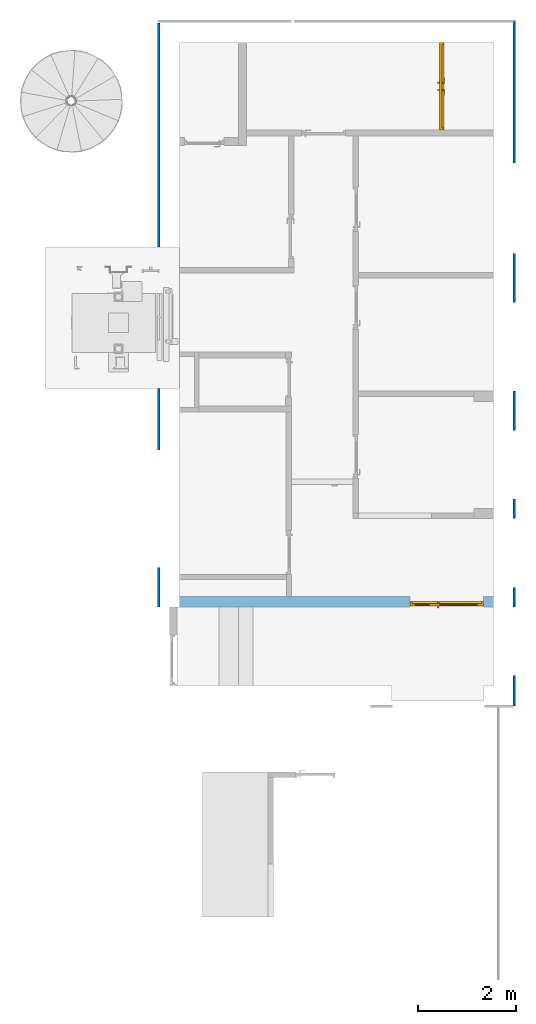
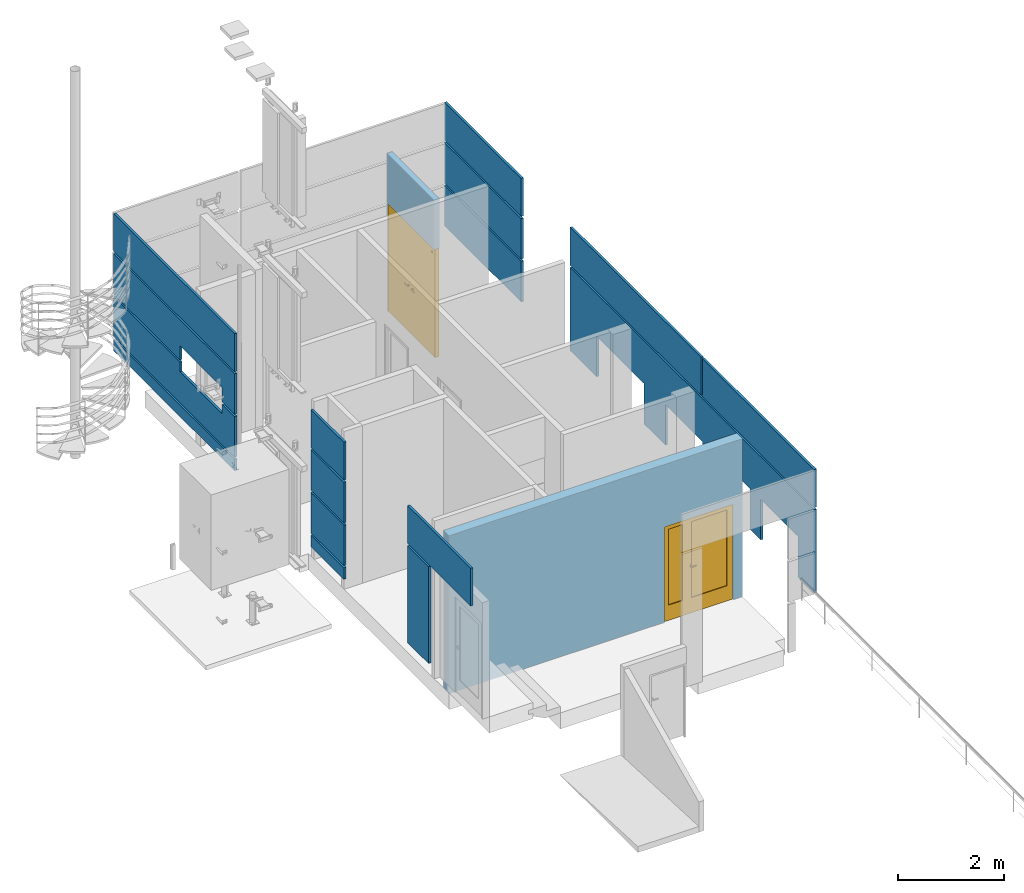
# One storey, part 6 of 15: 2 doors, 2 walls, 2 openings, plus 2 elements that do not belong to this part.
"""IFC2X3 building model written with IfcOpenShell, lengths in millimetres."""

import ifcopenshell
import ifcopenshell.guid

model = None  # the IFC model being written
_history = None  # IfcOwnerHistory: only IFC2X3 demands one
_inside = {}  # id of a spatial element -> (the spatial element, [elements in it])
_under = {}  # id of a project, library or spatial element -> (it, [spatial elements below it])
_declared = {}  # id of a project -> (the project, [libraries it declares])
_typed = {}  # id of a type object -> (the type object, [elements of that type])
_made_of = {}  # id of a material, layer set ... -> (it, [elements and type objects made of it])


def new_model(schema):
    """Start an empty IFC model of exactly this schema.

    Asked for "IFC4X3", IfcOpenShell would pick the latest addendum, in which some entities
    have other attributes; the version numbers below select the first issue.
    IFC2X3 requires an IfcOwnerHistory on every rooted entity: one is made here for all.
    """
    global model, _history
    if schema == "IFC4X3":
        model = ifcopenshell.file(schema_version=(4, 3, 0, 0))
    else:
        model = ifcopenshell.file(schema=schema)
    _inside.clear()
    _under.clear()
    _declared.clear()
    _typed.clear()
    _made_of.clear()
    _history = None
    if model.schema == "IFC2X3":
        org = make("IfcOrganization", Name="unknown")
        user = make(
            "IfcPersonAndOrganization",
            ThePerson=make("IfcPerson", FamilyName="unknown"),
            TheOrganization=org,
        )
        app = make(
            "IfcApplication",
            ApplicationDeveloper=org,
            Version="unknown",
            ApplicationFullName="unknown",
            ApplicationIdentifier="unknown",
        )
        _history = make(
            "IfcOwnerHistory",
            OwningUser=user,
            OwningApplication=app,
            ChangeAction="ADDED",
            CreationDate=0,
        )
    return model


def make(cls, **values):
    """One entity of the class cls with the attributes given. An attribute that is None is left unset."""
    return model.create_entity(
        cls, **{name: value for name, value in values.items() if value is not None}
    )


def entity(cls, *values):
    """Any entity or typed value of the class cls, its attributes in the order of the schema. None: left unset."""
    e = model.create_entity(cls)
    for i, value in enumerate(values):
        if value is not None:
            e[i] = value
    return e


def rooted(cls, **values):
    """An entity with a GlobalId (a new one), such as an element, a storey or a relation."""
    return make(cls, GlobalId=ifcopenshell.guid.new(), OwnerHistory=_history, **values)


def si_unit(unit_type, name, prefix=None):
    """IfcSIUnit, for example si_unit("LENGTHUNIT", "METRE", prefix="MILLI")."""
    return make("IfcSIUnit", UnitType=unit_type, Prefix=prefix, Name=name)


def converted_unit(unit_type, name, factor, base, dimensions=None, offset=None):
    """IfcConversionBasedUnit, such as the inch: factor (a typed value) times the base unit."""
    return make(
        "IfcConversionBasedUnit"
        if offset is None
        else "IfcConversionBasedUnitWithOffset",
        ConversionOffset=offset,
        Dimensions=None
        if dimensions is None
        else entity("IfcDimensionalExponents", *dimensions),
        UnitType=unit_type,
        Name=name,
        ConversionFactor=make(
            "IfcMeasureWithUnit", ValueComponent=factor, UnitComponent=base
        ),
    )


def derived_unit(unit_type, elements):
    """IfcDerivedUnit: a product of units, each with its exponent."""
    return make(
        "IfcDerivedUnit",
        Elements=[
            make("IfcDerivedUnitElement", Unit=unit, Exponent=power)
            for unit, power in elements
        ],
        UnitType=unit_type,
    )


def assignment(units):
    """IfcUnitAssignment: the units of a project."""
    return None if units is None else make("IfcUnitAssignment", Units=units)


def point(xyz):
    """IfcCartesianPoint."""
    return None if xyz is None else make("IfcCartesianPoint", Coordinates=xyz)


def direction(xyz):
    """IfcDirection."""
    return None if xyz is None else make("IfcDirection", DirectionRatios=xyz)


def frame(location, z_axis=None, x_axis=None):
    """IfcAxis2Placement3D, a coordinate frame: its origin and axes. An axis left out is left unset."""
    return make(
        "IfcAxis2Placement3D",
        Location=point(location),
        Axis=direction(z_axis),
        RefDirection=direction(x_axis),
    )


def frame_2d(location, x_axis=None):
    """IfcAxis2Placement2D, a coordinate frame in the plane: its origin and x axis."""
    return make(
        "IfcAxis2Placement2D", Location=point(location), RefDirection=direction(x_axis)
    )


def origin():
    """The frame at (0, 0, 0) with its axes left unset."""
    return frame((0.0, 0.0, 0.0))


def place(relative_to, where):
    """IfcLocalPlacement: puts the frame where relative to a parent placement (None: the world)."""
    return make(
        "IfcLocalPlacement", PlacementRelTo=relative_to, RelativePlacement=where
    )


def context(
    kind, dimensions, precision=None, world=None, true_north=None, identifier=None
):
    """IfcGeometricRepresentationContext, for example the 3D "Model" context."""
    return make(
        "IfcGeometricRepresentationContext",
        ContextIdentifier=identifier,
        ContextType=kind,
        CoordinateSpaceDimension=dimensions,
        Precision=precision,
        WorldCoordinateSystem=world,
        TrueNorth=true_north,
    )


def subcontext(parent, identifier, kind, view, scale=None):
    """IfcGeometricRepresentationSubContext, for example "Body" below "Model"."""
    return make(
        "IfcGeometricRepresentationSubContext",
        ContextIdentifier=identifier,
        ContextType=kind,
        ParentContext=parent,
        TargetScale=scale,
        TargetView=view,
    )


def project(units=None, contexts=None):
    """IfcProject with its units and contexts."""
    return rooted(
        "IfcProject",
        Name="project",
        RepresentationContexts=contexts,
        UnitsInContext=assignment(units),
    )


def spatial(cls, under=None, at=None, **own):
    """A site, building, storey or space (cls), placed at a placement, below another one or the project."""
    s = rooted(cls, ObjectPlacement=at, **own)
    if under is not None:
        _under.setdefault(under.id(), (under, []))[1].append(s)
    return s


def profile(cls, at=None, kind="AREA", **sizes):
    """A parametric profile (cls). Its sizes go by their IFC names, for example OverallWidth=200.0."""
    return make(cls, ProfileType=kind, Position=at, **sizes)


def rectangle(**sizes):
    """IfcRectangleProfileDef."""
    return profile("IfcRectangleProfileDef", **sizes)


def extrude(swept, where, along, depth):
    """IfcExtrudedAreaSolid: the profile swept, set in the frame where, extruded along a direction by depth."""
    return make(
        "IfcExtrudedAreaSolid",
        SweptArea=swept,
        Position=where,
        ExtrudedDirection=direction(along),
        Depth=depth,
    )


def faces_of(points, faces, orient=None, outer=None):
    """IfcFace entities. A face is a list of loops; a loop is a list of indices into points, from 0.

    orient and outer hold one flag for each loop. By default every Orientation is true, the
    first loop of a face is its IfcFaceOuterBound and the others are IfcFaceBound.
    """
    made = []
    for i, loops in enumerate(faces):
        bounds = []
        for j, loop in enumerate(loops):
            is_outer = j == 0 if outer is None else outer[i][j]
            bounds.append(
                make(
                    "IfcFaceOuterBound" if is_outer else "IfcFaceBound",
                    Bound=make("IfcPolyLoop", Polygon=[points[k] for k in loop]),
                    Orientation=True if orient is None else orient[i][j],
                )
            )
        made.append(make("IfcFace", Bounds=bounds))
    return made


def faceted_brep(points, faces, orient=None, outer=None, voids=None):
    """IfcFacetedBrep: a solid bounded by flat faces; with voids (closed shells), ...WithVoids."""
    shared = [point(p) for p in points]
    hull = make("IfcClosedShell", CfsFaces=faces_of(shared, faces, orient, outer))
    if voids is None:
        return make("IfcFacetedBrep", Outer=hull)
    return make(
        "IfcFacetedBrepWithVoids",
        Outer=hull,
        Voids=[
            make(cls, CfsFaces=faces_of(shared, fs, o, b)) for cls, fs, o, b in voids
        ],
    )


def shape(context_of_items, identifier, shape_type, items):
    """IfcShapeRepresentation: the items that make up one representation, for example the "Body"."""
    return make(
        "IfcShapeRepresentation",
        ContextOfItems=context_of_items,
        RepresentationIdentifier=identifier,
        RepresentationType=shape_type,
        Items=items,
    )


def source(mapping_origin, context_of_items, identifier, shape_type, items):
    """IfcRepresentationMap: a shape defined once, which mapped items show again and again."""
    return make(
        "IfcRepresentationMap",
        MappingOrigin=mapping_origin,
        MappedRepresentation=shape(context_of_items, identifier, shape_type, items),
    )


def transform(
    local_origin,
    x_axis=None,
    y_axis=None,
    z_axis=None,
    scale=None,
    scale2=None,
    scale3=None,
    uniform=True,
):
    """IfcCartesianTransformationOperator3D, or its non-uniform kind. x_axis, y_axis, z_axis: its Axis1, 2, 3."""
    if uniform:
        return make(
            "IfcCartesianTransformationOperator3D",
            Axis1=direction(x_axis),
            Axis2=direction(y_axis),
            LocalOrigin=point(local_origin),
            Scale=scale,
            Axis3=direction(z_axis),
        )
    return make(
        "IfcCartesianTransformationOperator3DnonUniform",
        Axis1=direction(x_axis),
        Axis2=direction(y_axis),
        LocalOrigin=point(local_origin),
        Scale=scale,
        Axis3=direction(z_axis),
        Scale2=scale2,
        Scale3=scale3,
    )


def mapped(mapping_source, mapping_target):
    """IfcMappedItem: shows the shape of a source again, moved by a transform."""
    return make(
        "IfcMappedItem", MappingSource=mapping_source, MappingTarget=mapping_target
    )


def material(Name=None, Category=None):
    """IfcMaterial."""
    return make("IfcMaterial", Name=Name, Category=Category)


def material_list(materials):
    """IfcMaterialList."""
    return make("IfcMaterialList", Materials=materials)


def layer(
    of_material, thickness, ventilated=None, Name=None, Category=None, Priority=None
):
    """IfcMaterialLayer: one layer of a wall or slab, of a material (None: an air gap)."""
    return make(
        "IfcMaterialLayer",
        Material=of_material,
        LayerThickness=thickness,
        IsVentilated=ventilated,
        Name=Name,
        Category=Category,
        Priority=Priority,
    )


def layer_set(layers, Name=None):
    """IfcMaterialLayerSet."""
    return make("IfcMaterialLayerSet", MaterialLayers=layers, LayerSetName=Name)


def layer_usage(for_layer_set, set_direction, sense, offset, extent=None):
    """IfcMaterialLayerSetUsage: how a layer set lies in its element."""
    return make(
        "IfcMaterialLayerSetUsage",
        ForLayerSet=for_layer_set,
        LayerSetDirection=set_direction,
        DirectionSense=sense,
        OffsetFromReferenceLine=offset,
        ReferenceExtent=extent,
    )


def made_of(thing, what):
    """Note that an element or type object is made of a material, layer set ...; save() writes the relation."""
    if what is not None:
        _made_of.setdefault(what.id(), (what, []))[1].append(thing)
    return thing


def type_object(cls, material=None, **own):
    """A type object (cls), such as IfcWallType, which elements share."""
    return made_of(rooted(cls, **own), material)


def type_shapes(of_type, sources):
    """Give a type object the sources (RepresentationMaps) that its elements show as mapped items."""
    of_type.RepresentationMaps = sources


def element(
    cls,
    number,
    at=None,
    inside=None,
    cuts=None,
    type_object=None,
    material=None,
    context=None,
    identifier="Body",
    shape_type=None,
    held_by="IfcProductDefinitionShape",
    body=None,
    shapes=None,
    **own,
):
    """One element of the class cls, such as IfcWall. Its Tag is "e" and its number.

    at: its placement. inside: the storey or other place that contains it. cuts: it is an
    opening in that element (IfcRelVoidsElement). A single representation is given by context,
    identifier, shape_type and body (its items); several are given by shapes. held_by: the class
    of the entity that holds the representations. save() writes the other relations.
    """
    e = rooted(cls, Tag="e%d" % number, ObjectPlacement=at, **own)
    if body is not None:
        shapes = [shape(context, identifier, shape_type, body)]
    if shapes is not None:
        e.Representation = make(held_by, Representations=shapes)
    if inside is not None:
        _inside.setdefault(inside.id(), (inside, []))[1].append(e)
    if cuts is not None:
        rooted(
            "IfcRelVoidsElement", RelatingBuildingElement=cuts, RelatedOpeningElement=e
        )
    if type_object is not None:
        _typed.setdefault(type_object.id(), (type_object, []))[1].append(e)
    return made_of(e, material)


def fill(opening, filler):
    """IfcRelFillsElement: the door or window that sits in an opening."""
    return rooted(
        "IfcRelFillsElement",
        RelatingOpeningElement=opening,
        RelatedBuildingElement=filler,
    )


def aggregate(whole, parts):
    """IfcRelAggregates: a whole, such as a stair, and the parts it consists of."""
    return rooted("IfcRelAggregates", RelatingObject=whole, RelatedObjects=parts)


def save(model, path):
    """Write the relations noted so far, then the file.

    IfcRelAggregates (storeys below a building ...), IfcRelContainedInSpatialStructure (elements
    in a storey), IfcRelDefinesByType, IfcRelAssociatesMaterial and IfcRelDeclares: one each for
    every whole, place, type object, material and project.
    """
    for whole, parts in _under.values():
        aggregate(whole, parts)
    for where, things in _inside.values():
        rooted(
            "IfcRelContainedInSpatialStructure",
            RelatedElements=things,
            RelatingStructure=where,
        )
    for kind, things in _typed.values():
        rooted("IfcRelDefinesByType", RelatedObjects=things, RelatingType=kind)
    for what, things in _made_of.values():
        rooted("IfcRelAssociatesMaterial", RelatedObjects=things, RelatingMaterial=what)
    for by, libraries in _declared.values():
        rooted("IfcRelDeclares", RelatingContext=by, RelatedDefinitions=libraries)
    model.write(path)


model = new_model("IFC2X3")

# Units and contexts
model_context = context("Model", 3, precision=0.01, world=origin(), true_north=direction((6.12303176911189e-17, 1.0)))
body_context = subcontext(model_context, "Body", "Model", "MODEL_VIEW")
ifc_project = project(units=[si_unit("LENGTHUNIT", "METRE", prefix="MILLI"), si_unit("AREAUNIT", "SQUARE_METRE"), si_unit("VOLUMEUNIT", "CUBIC_METRE"), converted_unit("PLANEANGLEUNIT", "DEGREE", entity("IfcRatioMeasure", 0.0174532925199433), si_unit("PLANEANGLEUNIT", "RADIAN"), dimensions=[0, 0, 0, 0, 0, 0, 0]), si_unit("MASSUNIT", "GRAM", prefix="KILO"), derived_unit("MASSDENSITYUNIT", [(si_unit("MASSUNIT", "GRAM", prefix="KILO"), 1), (si_unit("LENGTHUNIT", "METRE"), -3)]), si_unit("TIMEUNIT", "SECOND"), si_unit("FREQUENCYUNIT", "HERTZ"), si_unit("THERMODYNAMICTEMPERATUREUNIT", "DEGREE_CELSIUS"), derived_unit("THERMALTRANSMITTANCEUNIT", [(si_unit("MASSUNIT", "GRAM", prefix="KILO"), 1), (si_unit("THERMODYNAMICTEMPERATUREUNIT", "KELVIN"), -1), (si_unit("TIMEUNIT", "SECOND"), -3)]), derived_unit("VOLUMETRICFLOWRATEUNIT", [(si_unit("LENGTHUNIT", "METRE"), 3), (si_unit("TIMEUNIT", "SECOND"), -1)]), si_unit("ELECTRICCURRENTUNIT", "AMPERE"), si_unit("ELECTRICVOLTAGEUNIT", "VOLT"), si_unit("POWERUNIT", "WATT"), si_unit("FORCEUNIT", "NEWTON", prefix="KILO"), si_unit("ILLUMINANCEUNIT", "LUX"), si_unit("LUMINOUSFLUXUNIT", "LUMEN"), si_unit("LUMINOUSINTENSITYUNIT", "CANDELA"), derived_unit("USERDEFINED", [(si_unit("MASSUNIT", "GRAM", prefix="KILO"), -1), (si_unit("LENGTHUNIT", "METRE"), -2), (si_unit("TIMEUNIT", "SECOND"), 3), (si_unit("LUMINOUSFLUXUNIT", "LUMEN"), 1)]), derived_unit("LINEARVELOCITYUNIT", [(si_unit("LENGTHUNIT", "METRE"), 1), (si_unit("TIMEUNIT", "SECOND"), -1)]), si_unit("PRESSUREUNIT", "PASCAL"), derived_unit("USERDEFINED", [(si_unit("LENGTHUNIT", "METRE"), -2), (si_unit("MASSUNIT", "GRAM", prefix="KILO"), 1), (si_unit("TIMEUNIT", "SECOND"), -2)])], contexts=[model_context])

# Site, building, storey
site_placement = place(None, frame((-151.875543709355, 2715.0, 0.0)))
site = spatial("IfcSite", under=ifc_project, at=site_placement, Name="Surface", CompositionType="ELEMENT")
building_placement = place(site_placement, origin())
building = spatial("IfcBuilding", under=site, at=building_placement, CompositionType="ELEMENT")
storey_placement = place(building_placement, frame((0.0, 0.0, -135.0)))
storey = spatial("IfcBuildingStorey", under=building, at=storey_placement, Name="uus 1 korrus", CompositionType="ELEMENT", Elevation=-134.99999999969)

# Wall, opening, door
ifc_material_1 = material(Name="__Kips GN13_tava")
ifc_layer_1 = layer(ifc_material_1, 12.5)
ifc_layer_2 = layer(ifc_material_1, 12.5)
ifc_material_2 = material(Name="__Soojustus EPS")
ifc_layer_3 = layer(ifc_material_2, 66.0)
ifc_layer_4 = layer(ifc_material_1, 12.5)
ifc_layer_5 = layer(ifc_material_1, 12.5)
ifc_layer_set_1 = layer_set([ifc_layer_1, ifc_layer_2, ifc_layer_3, ifc_layer_4, ifc_layer_5], Name="Basic Wall:SS-3_Kipssein tava ruumide vahel")
ifc_layer_usage_1 = layer_usage(ifc_layer_set_1, "AXIS2", "NEGATIVE", 58.0)
wall_type_1 = type_object("IfcWallType", Name="Basic Wall:SS-3_Kipssein tava ruumide vahel", PredefinedType="STANDARD", material=ifc_layer_set_1)
wall_1_placement = place(storey_placement, frame((37338.6162681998, 24525.9862342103, 0.0), z_axis=(0.0, 0.0, 1.0), x_axis=(0.0, 1.0, 0.0)))
wall_1 = element("IfcWallStandardCase", 1, at=wall_1_placement, inside=storey, type_object=wall_type_1, material=ifc_layer_usage_1, Name="Basic Wall:SS-3_Kipssein tava ruumide vahel", ObjectType="Basic Wall:SS-3_Kipssein tava ruumide vahel", context=body_context, shape_type="SweptSolid", body=[
    extrude(rectangle(XDim=1784.01379234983, YDim=116.0, at=frame_2d((892.006896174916, -7.85149723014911e-13), x_axis=(-1.0, 0.0))), origin(), (0.0, 0.0, 1.0), 3640.0),
])
opening_1_placement = place(wall_1_placement, frame((0.0, -58.0, 0.0)))
opening_1 = element("IfcOpeningElement", 2, at=opening_1_placement, cuts=wall_1, Name="Kahepoolsed:SU-25:1", ObjectType="Opening", context=body_context, shape_type="SweptSolid", body=[
    extrude(rectangle(XDim=2499.99999999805, YDim=1780.0, at=frame_2d((1249.99999999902, 890.0), x_axis=(1.0, 0.0))), frame((0.0, 0.0, 0.0), z_axis=(0.0, 1.0, 0.0), x_axis=(0.0, 0.0, 1.0)), (0.0, 0.0, 1.0), 116.0),
])
ifc_material_3 = material(Name="_Alumiiniumprofiil - must")
ifc_material_4 = material(Name="Steel/Aluminium")
ifc_material_list_1 = material_list([ifc_material_3, ifc_material_4])
ifc_material_list_2 = material_list([ifc_material_3, ifc_material_4])
door_style_1 = type_object("IfcDoorStyle", Name="SU-25", ConstructionType="NOTDEFINED", OperationType="NOTDEFINED", ParameterTakesPrecedence=False, Sizeable=False, material=ifc_material_list_2)
shared_shape_1 = source(origin(), body_context, "Body", "Brep", [
    faceted_brep([(802.499999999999, 6.0, 1100.0), (707.499999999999, 6.0, 1100.0), (707.499999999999, 1.0, 1100.0), (827.499999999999, 1.0, 1100.0), (827.499999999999, 44.0, 1100.0), (802.499999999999, 44.0, 1100.0), (802.499999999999, 6.0, 1075.0), (802.499999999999, 44.0, 1075.0), (827.499999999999, 44.0, 1075.0), (827.499999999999, 1.0, 1075.0), (707.499999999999, 1.0, 1075.0), (707.499999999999, 6.0, 1075.0)], [[[0, 1, 2, 3, 4, 5]], [[6, 7, 8, 9, 10, 11]], [[5, 7, 6, 0]], [[4, 8, 7, 5]], [[3, 9, 8, 4]], [[2, 10, 9, 3]], [[1, 11, 10, 2]], [[0, 6, 11, 1]]]),
    faceted_brep([(790.0, 44.0, 1125.0), (840.0, 44.0, 1125.0), (840.0, 46.0, 1125.0), (790.0, 46.0, 1125.0), (790.0, 44.0, 1005.0), (790.0, 46.0, 1005.0), (840.0, 46.0, 1005.0), (840.0, 44.0, 1005.0)], [[[0, 1, 2, 3]], [[4, 5, 6, 7]], [[3, 5, 4, 0]], [[2, 6, 5, 3]], [[1, 7, 6, 2]], [[0, 4, 7, 1]]]),
    faceted_brep([(802.499999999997, 136.0, 1100.0), (802.499999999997, 98.0, 1100.0), (827.499999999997, 98.0, 1100.0), (827.499999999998, 141.0, 1100.0), (707.499999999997, 141.0, 1100.0), (707.499999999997, 136.0, 1100.0), (802.499999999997, 136.0, 1075.0), (707.499999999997, 136.0, 1075.0), (707.499999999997, 141.0, 1075.0), (827.499999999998, 141.0, 1075.0), (827.499999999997, 98.0, 1075.0), (802.499999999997, 98.0, 1075.0)], [[[0, 1, 2, 3, 4, 5]], [[6, 7, 8, 9, 10, 11]], [[1, 0, 6, 11]], [[2, 1, 11, 10]], [[3, 2, 10, 9]], [[4, 3, 9, 8]], [[5, 4, 8, 7]], [[0, 5, 7, 6]]]),
    faceted_brep([(790.0, 98.0, 1125.0), (790.0, 96.0, 1125.0), (840.0, 96.0, 1125.0), (840.0, 98.0, 1125.0), (790.0, 98.0, 1005.0), (840.0, 98.0, 1005.0), (840.0, 96.0, 1005.0), (790.0, 96.0, 1005.0)], [[[0, 1, 2, 3]], [[4, 5, 6, 7]], [[1, 0, 4, 7]], [[2, 1, 7, 6]], [[3, 2, 6, 5]], [[0, 3, 5, 4]]]),
    faceted_brep([(977.499999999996, 6.0, 1100.0), (977.499999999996, 44.0, 1100.0), (952.499999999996, 44.0, 1100.0), (952.499999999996, 1.0, 1100.0), (1072.5, 1.0, 1100.0), (1072.5, 6.0, 1100.0), (977.499999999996, 6.0, 1075.0), (1072.5, 6.0, 1075.0), (1072.5, 1.0, 1075.0), (952.499999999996, 1.0, 1075.0), (952.499999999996, 44.0, 1075.0), (977.499999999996, 44.0, 1075.0)], [[[0, 1, 2, 3, 4, 5]], [[6, 7, 8, 9, 10, 11]], [[1, 0, 6, 11]], [[2, 1, 11, 10]], [[3, 2, 10, 9]], [[4, 3, 9, 8]], [[5, 4, 8, 7]], [[0, 5, 7, 6]]]),
    faceted_brep([(990.0, 44.0, 1125.0), (990.0, 46.0, 1125.0), (940.0, 46.0, 1125.0), (940.0, 44.0, 1125.0), (990.0, 44.0, 1005.0), (940.0, 44.0, 1005.0), (940.0, 46.0, 1005.0), (990.0, 46.0, 1005.0)], [[[0, 1, 2, 3]], [[4, 5, 6, 7]], [[1, 0, 4, 7]], [[2, 1, 7, 6]], [[3, 2, 6, 5]], [[0, 3, 5, 4]]]),
    faceted_brep([(977.499999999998, 136.0, 1100.0), (1072.5, 136.0, 1100.0), (1072.5, 141.0, 1100.0), (952.499999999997, 141.0, 1100.0), (952.499999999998, 98.0, 1100.0), (977.499999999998, 98.0, 1100.0), (977.499999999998, 136.0, 1075.0), (977.499999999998, 98.0, 1075.0), (952.499999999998, 98.0, 1075.0), (952.499999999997, 141.0, 1075.0), (1072.5, 141.0, 1075.0), (1072.5, 136.0, 1075.0)], [[[0, 1, 2, 3, 4, 5]], [[6, 7, 8, 9, 10, 11]], [[5, 7, 6, 0]], [[4, 8, 7, 5]], [[3, 9, 8, 4]], [[2, 10, 9, 3]], [[1, 11, 10, 2]], [[0, 6, 11, 1]]]),
    faceted_brep([(990.0, 98.0, 1125.0), (940.0, 98.0, 1125.0), (940.0, 96.0, 1125.0), (990.0, 96.0, 1125.0), (990.0, 98.0, 1005.0), (990.0, 96.0, 1005.0), (940.0, 96.0, 1005.0), (940.0, 98.0, 1005.0)], [[[0, 1, 2, 3]], [[4, 5, 6, 7]], [[3, 5, 4, 0]], [[2, 6, 5, 3]], [[1, 7, 6, 2]], [[0, 4, 7, 1]]]),
    faceted_brep([(1740.0, 6.0, 30.0), (1740.0, 6.0, 0.0), (1740.0, 46.0, 0.0), (1740.0, 46.0, 20.0), (1740.0, 46.0, 30.0), (40.0, 6.0, 30.0), (40.0, 46.0, 30.0), (40.0, 46.0, 20.0), (40.0, 46.0, 0.0), (40.0, 6.0, 0.0), (25.0, 46.0, 0.0), (25.0, 96.0, 0.0), (1755.0, 96.0, 0.0), (1755.0, 46.0, 0.0), (1755.0, 96.0, 20.0), (1755.0, 46.0, 20.0), (25.0, 96.0, 20.0), (25.0, 46.0, 20.0)], [[[0, 1, 2, 3, 4]], [[5, 6, 7, 8, 9]], [[1, 0, 5, 9]], [[2, 1, 9, 8, 10, 11, 12, 13]], [[6, 4, 3, 7]], [[0, 4, 6, 5]], [[14, 15, 13, 12]], [[16, 11, 10, 17]], [[15, 14, 16, 17, 7, 3]], [[13, 15, 3, 2]], [[14, 12, 11, 16]], [[17, 10, 8, 7]]]),
    faceted_brep([(1780.0, 6.0, 0.0), (1740.0, 6.0, 0.0), (1740.0, 46.0, 0.0), (1755.0, 46.0, 0.0), (1755.0, 96.0, 0.0), (1780.0, 96.0, 0.0), (1780.0, 6.0, 2500.0), (0.0, 6.0, 2500.0), (0.0, 6.0, 0.0), (40.0, 6.0, 0.0), (40.0, 6.0, 2460.0), (1740.0, 6.0, 2460.0), (1740.0, 46.0, 2460.0), (40.0, 46.0, 2460.0), (40.0, 46.0, 0.0), (25.0, 46.0, 0.0), (25.0, 46.0, 2475.0), (1755.0, 46.0, 2475.0), (1755.0, 96.0, 2475.0), (25.0, 96.0, 2475.0), (25.0, 96.0, 0.0), (0.0, 96.0, 0.0), (0.0, 96.0, 2500.0), (1780.0, 96.0, 2500.0)], [[[0, 1, 2, 3, 4, 5]], [[1, 0, 6, 7, 8, 9, 10, 11]], [[2, 1, 11, 12]], [[3, 2, 12, 13, 14, 15, 16, 17]], [[4, 3, 17, 18]], [[5, 4, 18, 19, 20, 21, 22, 23]], [[0, 5, 23, 6]], [[8, 7, 22, 21]], [[9, 8, 21, 20, 15, 14]], [[10, 9, 14, 13]], [[16, 15, 20, 19]], [[11, 10, 13, 12]], [[17, 16, 19, 18]], [[7, 6, 23, 22]]]),
    faceted_brep([(125.0, 96.0, 2350.0), (125.0, 46.0, 2350.0), (125.0, 46.0, 2400.0), (125.0, 96.0, 2400.0), (90.0, 96.0, 2350.0), (90.0, 46.0, 2350.0), (90.0, 96.0, 2400.0), (90.0, 46.0, 2400.0), (25.0, 46.0, 20.0), (890.0, 46.0, 20.0), (890.0, 46.0, 2475.0), (25.0, 46.0, 2475.0), (25.0, 96.0, 20.0), (25.0, 96.0, 2475.0), (890.0, 96.0, 2475.0), (890.0, 96.0, 20.0)], [[[0, 1, 2, 3]], [[1, 0, 4, 5]], [[5, 4, 6, 7]], [[7, 6, 3, 2]], [[2, 1, 5, 7], [8, 9, 10, 11]], [[0, 3, 6, 4], [12, 13, 14, 15]], [[9, 8, 12, 15]], [[10, 9, 15, 14]], [[11, 10, 14, 13]], [[8, 11, 13, 12]]], outer=[[True], [True], [True], [True], [False, True], [False, True], [True], [True], [True], [True]]),
    faceted_brep([(990.0, 96.0, 2350.0), (990.0, 46.0, 2350.0), (990.0, 46.0, 2400.0), (990.0, 96.0, 2400.0), (980.0, 96.0, 2350.0), (980.0, 46.0, 2350.0), (980.0, 96.0, 2400.0), (980.0, 46.0, 2400.0), (1755.0, 46.0, 2475.0), (890.0, 46.0, 2475.0), (890.0, 46.0, 20.0), (1755.0, 46.0, 20.0), (1755.0, 96.0, 2475.0), (1755.0, 96.0, 20.0), (890.0, 96.0, 20.0), (890.0, 96.0, 2475.0)], [[[0, 1, 2, 3]], [[1, 0, 4, 5]], [[5, 4, 6, 7]], [[7, 6, 3, 2]], [[2, 1, 5, 7], [8, 9, 10, 11]], [[0, 3, 6, 4], [12, 13, 14, 15]], [[9, 8, 12, 15]], [[10, 9, 15, 14]], [[11, 10, 14, 13]], [[8, 11, 13, 12]]], outer=[[True], [True], [True], [True], [False, True], [False, True], [True], [True], [True], [True]]),
])
type_shapes(door_style_1, [shared_shape_1])
door_1_placement = place(opening_1_placement, origin())
door_1 = element("IfcDoor", 3, at=door_1_placement, inside=storey, type_object=door_style_1, material=ifc_material_list_1, Name="Kahepoolsed:SU-25", ObjectType="SU-25", OverallHeight=2499.99999999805, OverallWidth=1780.0, context=body_context, shape_type="MappedRepresentation", body=[
    mapped(shared_shape_1, transform((0.0, 0.0, 0.0), scale=1.0)),
])
fill(opening_1, door_1)

ifc_material_5 = material(Name="__Hall krohv")
ifc_layer_6 = layer(ifc_material_5, 10.0)
ifc_material_6 = material(Name="__Kergblokk")
ifc_layer_7 = layer(ifc_material_6, 190.0)
ifc_layer_8 = layer(ifc_material_5, 10.0)
ifc_layer_set_2 = layer_set([ifc_layer_6, ifc_layer_7, ifc_layer_8], Name="Basic Wall:SS-2.1_Columbia kivi EI-60 sein")
ifc_layer_usage_2 = layer_usage(ifc_layer_set_2, "AXIS2", "NEGATIVE", 105.0)
wall_type_2 = type_object("IfcWallType", Name="Basic Wall:SS-2.1_Columbia kivi EI-60 sein", PredefinedType="STANDARD", material=ifc_layer_set_2)
wall_2_placement = place(storey_placement, frame((32001.6162682, 14915.0, 0.0)))
wall_2 = element("IfcWallStandardCase", 4, at=wall_2_placement, inside=storey, type_object=wall_type_2, material=ifc_layer_usage_2, Name="Basic Wall:SS-2.1_Columbia kivi EI-60 sein", ObjectType="Basic Wall:SS-2.1_Columbia kivi EI-60 sein", context=body_context, shape_type="SweptSolid", body=[
    extrude(rectangle(XDim=6395.00000000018, YDim=210.0, at=frame_2d((3197.50000000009, -1.98951966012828e-13), x_axis=(-1.0, 0.0))), origin(), (0.0, 0.0, 1.0), 3640.0),
])
opening_2_placement = place(wall_2_placement, frame((6194.97965710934, 105.0, 0.0)))
opening_2 = element("IfcOpeningElement", 5, at=opening_2_placement, cuts=wall_2, Name="Kahepoolsed:SU-13:1", ObjectType="Opening", context=body_context, shape_type="SweptSolid", body=[
    extrude(rectangle(XDim=2199.99999999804, YDim=1500.0, at=frame_2d((1099.99999999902, 750.0), x_axis=(1.0, 0.0))), frame((0.0, 0.0, 0.0), z_axis=(0.0, -1.0, 0.0), x_axis=(0.0, 0.0, 1.0)), (0.0, 0.0, 1.0), 210.0),
])
ifc_material_7 = material(Name="__Uks_hele tamm")
ifc_material_8 = material(Name="EP Tavallinen lasi")
ifc_material_list_3 = material_list([ifc_material_3, ifc_material_7, ifc_material_8])
ifc_material_list_4 = material_list([ifc_material_3, ifc_material_7, ifc_material_8])
door_style_2 = type_object("IfcDoorStyle", Name="SU-13", ConstructionType="NOTDEFINED", OperationType="FOLDING_TO_RIGHT", ParameterTakesPrecedence=False, Sizeable=False, material=ifc_material_list_4)
shared_shape_2 = source(origin(), body_context, "Body", "Brep", [
    faceted_brep([(912.499999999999, 100.0, 1100.0), (817.499999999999, 100.0, 1100.0), (817.499999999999, 95.0, 1100.0), (937.5, 95.0, 1100.0), (937.5, 138.0, 1100.0), (912.5, 138.0, 1100.0), (912.499999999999, 100.0, 1075.0), (912.5, 138.0, 1075.0), (937.5, 138.0, 1075.0), (937.5, 95.0, 1075.0), (817.499999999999, 95.0, 1075.0), (817.499999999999, 100.0, 1075.0)], [[[0, 1, 2, 3, 4, 5]], [[6, 7, 8, 9, 10, 11]], [[5, 7, 6, 0]], [[4, 8, 7, 5]], [[3, 9, 8, 4]], [[2, 10, 9, 3]], [[1, 11, 10, 2]], [[0, 6, 11, 1]]]),
    faceted_brep([(900.0, 138.0, 1125.0), (950.0, 138.0, 1125.0), (950.0, 140.0, 1125.0), (900.0, 140.0, 1125.0), (900.0, 138.0, 1005.0), (900.0, 140.0, 1005.0), (950.0, 140.0, 1005.0), (950.0, 138.0, 1005.0)], [[[0, 1, 2, 3]], [[4, 5, 6, 7]], [[3, 5, 4, 0]], [[2, 6, 5, 3]], [[1, 7, 6, 2]], [[0, 4, 7, 1]]]),
    faceted_brep([(912.499999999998, 230.0, 1100.0), (912.499999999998, 192.0, 1100.0), (937.499999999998, 192.0, 1100.0), (937.499999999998, 235.0, 1100.0), (817.499999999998, 235.0, 1100.0), (817.499999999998, 230.0, 1100.0), (912.499999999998, 230.0, 1075.0), (817.499999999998, 230.0, 1075.0), (817.499999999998, 235.0, 1075.0), (937.499999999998, 235.0, 1075.0), (937.499999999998, 192.0, 1075.0), (912.499999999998, 192.0, 1075.0)], [[[0, 1, 2, 3, 4, 5]], [[6, 7, 8, 9, 10, 11]], [[1, 0, 6, 11]], [[2, 1, 11, 10]], [[3, 2, 10, 9]], [[4, 3, 9, 8]], [[5, 4, 8, 7]], [[0, 5, 7, 6]]]),
    faceted_brep([(900.0, 192.0, 1125.0), (900.0, 190.0, 1125.0), (950.0, 190.0, 1125.0), (950.0, 192.0, 1125.0), (900.0, 192.0, 1005.0), (950.0, 192.0, 1005.0), (950.0, 190.0, 1005.0), (900.0, 190.0, 1005.0)], [[[0, 1, 2, 3]], [[4, 5, 6, 7]], [[1, 0, 4, 7]], [[2, 1, 7, 6]], [[3, 2, 6, 5]], [[0, 3, 5, 4]]]),
    faceted_brep([(1460.0, 100.0, 30.0), (1460.0, 100.0, 0.0), (1460.0, 140.0, 0.0), (1460.0, 140.0, 20.0), (1460.0, 140.0, 30.0), (40.0, 100.0, 30.0), (40.0, 140.0, 30.0), (40.0, 140.0, 20.0), (40.0, 140.0, 0.0), (40.0, 100.0, 0.0), (25.0, 140.0, 0.0), (25.0, 190.0, 0.0), (1475.0, 190.0, 0.0), (1475.0, 140.0, 0.0), (1475.0, 190.0, 20.0), (1475.0, 140.0, 20.0), (25.0, 190.0, 20.0), (25.0, 140.0, 20.0)], [[[0, 1, 2, 3, 4]], [[5, 6, 7, 8, 9]], [[1, 0, 5, 9]], [[2, 1, 9, 8, 10, 11, 12, 13]], [[6, 4, 3, 7]], [[0, 4, 6, 5]], [[14, 15, 13, 12]], [[16, 11, 10, 17]], [[15, 14, 16, 17, 7, 3]], [[13, 15, 3, 2]], [[14, 12, 11, 16]], [[17, 10, 8, 7]]]),
    faceted_brep([(1500.0, 100.0, 0.0), (1460.0, 100.0, 0.0), (1460.0, 140.0, 0.0), (1475.0, 140.0, 0.0), (1475.0, 190.0, 0.0), (1500.0, 190.0, 0.0), (1500.0, 100.0, 2200.0), (0.0, 100.0, 2200.0), (0.0, 100.0, 0.0), (40.0, 100.0, 0.0), (40.0, 100.0, 2160.0), (1460.0, 100.0, 2160.0), (1460.0, 140.0, 2160.0), (40.0, 140.0, 2160.0), (40.0, 140.0, 0.0), (25.0, 140.0, 0.0), (25.0, 140.0, 2175.0), (1475.0, 140.0, 2175.0), (1475.0, 190.0, 2175.0), (25.0, 190.0, 2175.0), (25.0, 190.0, 0.0), (0.0, 190.0, 0.0), (0.0, 190.0, 2200.0), (1500.0, 190.0, 2200.0)], [[[0, 1, 2, 3, 4, 5]], [[1, 0, 6, 7, 8, 9, 10, 11]], [[2, 1, 11, 12]], [[3, 2, 12, 13, 14, 15, 16, 17]], [[4, 3, 17, 18]], [[5, 4, 18, 19, 20, 21, 22, 23]], [[0, 5, 23, 6]], [[8, 7, 22, 21]], [[9, 8, 21, 20, 15, 14]], [[10, 9, 14, 13]], [[16, 15, 20, 19]], [[11, 10, 13, 12]], [[17, 16, 19, 18]], [[7, 6, 23, 22]]]),
    faceted_brep([(125.0, 155.0, 350.0), (900.0, 155.0, 350.0), (900.0, 155.0, 2100.0), (125.0, 155.0, 2100.0), (125.0, 175.0, 350.0), (125.0, 175.0, 2100.0), (900.0, 175.0, 2100.0), (900.0, 175.0, 350.0)], [[[0, 1, 2, 3]], [[4, 5, 6, 7]], [[1, 0, 4, 7]], [[2, 1, 7, 6]], [[3, 2, 6, 5]], [[0, 3, 5, 4]]]),
    faceted_brep([(1100.0, 155.0, 350.0), (1400.0, 155.0, 350.0), (1400.0, 155.0, 2100.0), (1100.0, 155.0, 2100.0), (1100.0, 175.0, 350.0), (1100.0, 175.0, 2100.0), (1400.0, 175.0, 2100.0), (1400.0, 175.0, 350.0)], [[[0, 1, 2, 3]], [[4, 5, 6, 7]], [[1, 0, 4, 7]], [[2, 1, 7, 6]], [[3, 2, 6, 5]], [[0, 3, 5, 4]]]),
    faceted_brep([(1000.0, 140.0, 2175.0), (25.0, 140.0, 2175.0), (25.0, 140.0, 20.0), (1000.0, 140.0, 20.0), (125.0, 140.0, 350.0), (125.0, 140.0, 2100.0), (900.0, 140.0, 2100.0), (900.0, 140.0, 350.0), (1000.0, 190.0, 2175.0), (1000.0, 190.0, 20.0), (25.0, 190.0, 20.0), (25.0, 190.0, 2175.0), (125.0, 190.0, 2100.0), (125.0, 190.0, 350.0), (900.0, 190.0, 350.0), (900.0, 190.0, 2100.0)], [[[0, 1, 2, 3], [4, 5, 6, 7]], [[8, 9, 10, 11], [12, 13, 14, 15]], [[1, 0, 8, 11]], [[2, 1, 11, 10]], [[3, 2, 10, 9]], [[0, 3, 9, 8]], [[12, 5, 4, 13]], [[13, 4, 7, 14]], [[14, 7, 6, 15]], [[5, 12, 15, 6]]]),
    faceted_brep([(1000.0, 140.0, 2175.0), (1000.0, 140.0, 20.0), (1475.0, 140.0, 20.0), (1475.0, 140.0, 2175.0), (1100.0, 140.0, 350.0), (1100.0, 140.0, 2100.0), (1400.0, 140.0, 2100.0), (1400.0, 140.0, 350.0), (1000.0, 190.0, 2175.0), (1475.0, 190.0, 2175.0), (1475.0, 190.0, 20.0), (1000.0, 190.0, 20.0), (1100.0, 190.0, 2100.0), (1100.0, 190.0, 350.0), (1400.0, 190.0, 350.0), (1400.0, 190.0, 2100.0)], [[[0, 1, 2, 3], [4, 5, 6, 7]], [[8, 9, 10, 11], [12, 13, 14, 15]], [[1, 0, 8, 11]], [[2, 1, 11, 10]], [[3, 2, 10, 9]], [[0, 3, 9, 8]], [[12, 5, 4, 13]], [[13, 4, 7, 14]], [[14, 7, 6, 15]], [[5, 12, 15, 6]]]),
])
type_shapes(door_style_2, [shared_shape_2])
door_2_placement = place(opening_2_placement, frame((0.0, 0.0, 0.0), z_axis=(0.0, 0.0, 1.0), x_axis=(-1.0, 0.0, 0.0)))
door_2 = element("IfcDoor", 6, at=door_2_placement, inside=storey, type_object=door_style_2, material=ifc_material_list_3, Name="Kahepoolsed:SU-13", ObjectType="SU-13", OverallHeight=2199.99999999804, OverallWidth=1500.0, context=body_context, shape_type="MappedRepresentation", body=[
    mapped(shared_shape_2, transform((0.0, 0.0, 0.0), scale=1.0)),
])
fill(opening_2, door_2)

# Walls
wall_type_3 = type_object("IfcWallType", Name="fassaad3.1:fassaad3.1", PredefinedType="NOTDEFINED", material=ifc_material_4)
wall_3_placement = place(storey_placement, frame((38795.6162681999, 12790.0442934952, 1165.0), z_axis=(0.0, 0.0, 1.0), x_axis=(0.0, 1.0, 0.0)))
element("IfcWall", 7, at=wall_3_placement, inside=storey, type_object=wall_type_3, material=ifc_material_4, Name="fassaad3.1:fassaad3.1", ObjectType="fassaad3.1:fassaad3.1", context=body_context, shape_type="Brep", body=[
    faceted_brep([(13970.0, -50.0, 2845.0), (11070.0448732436, -50.0, 2845.0), (11070.0448732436, -50.0, 1970.0), (13970.0, -50.0, 1970.0), (11070.0448732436, 0.0, 2845.0), (11070.0448732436, 0.0, 1970.0), (13970.0, 0.0, 1970.0), (13970.0, 0.0, 2845.0)], [[[0, 1, 2, 3]], [[2, 1, 4, 5]], [[0, 3, 6, 7]], [[3, 2, 5, 6]], [[1, 0, 7, 4]], [[7, 6, 5, 4]]]),
    faceted_brep([(0.0, -50.0, 985.0), (0.0, -50.0, 1920.0), (0.0, 0.0, 1920.0), (0.0, 0.0, 985.0), (0.0, -50.0, 0.0), (0.0, 0.0, 0.0), (620.0, -50.0, 0.0), (620.0, 0.0, 0.0), (620.0, -50.0, 934.520810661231), (620.0, 0.0, 934.520810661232), (2020.0, -50.0, 934.520810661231), (2020.0, 0.0, 934.520810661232), (2020.0, -50.0, 0.0), (2020.0, 0.0, 0.0), (2420.0, -50.0, 0.0), (2420.0, 0.0, 0.0), (2420.0, -50.0, 934.520810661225), (2420.0, 0.0, 934.520810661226), (3820.0, -50.0, 934.520810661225), (3820.0, 0.0, 934.520810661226), (3820.0, -50.0, 0.0), (3820.0, 0.0, 0.0), (4220.04487324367, -50.0, 0.0), (4220.04487324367, 0.0, 0.0), (4220.04487324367, -50.0, 934.520810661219), (4220.04487324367, 0.0, 934.52081066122), (5620.04487324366, -50.0, 934.520810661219), (5620.04487324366, 0.0, 934.52081066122), (5620.04487324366, -50.0, 0.0), (5620.04487324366, 0.0, 0.0), (6420.0, -50.0, 0.0), (6420.0, 0.0, 0.0), (6420.0, -50.0, 934.520810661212), (6420.0, 0.0, 934.520810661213), (8219.99878644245, -50.0, 934.520810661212), (8219.99878644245, 0.0, 934.520810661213), (8219.99878644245, -50.0, 0.0), (8219.99878644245, 0.0, 0.0), (9219.9557065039, -50.0, 0.0), (9219.9557065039, 0.0, 0.0), (9219.9557065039, -50.0, 1920.0), (9219.9557065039, 0.0, 1920.0), (4270.04487324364, -50.0, 1920.0), (4270.04487324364, 0.0, 1920.0)], [[[0, 1, 2, 3]], [[4, 0, 3, 5]], [[6, 4, 5, 7]], [[8, 6, 7, 9]], [[10, 8, 9, 11]], [[12, 10, 11, 13]], [[14, 12, 13, 15]], [[16, 14, 15, 17]], [[18, 16, 17, 19]], [[20, 18, 19, 21]], [[22, 20, 21, 23]], [[24, 22, 23, 25]], [[26, 24, 25, 27]], [[28, 26, 27, 29]], [[30, 28, 29, 31]], [[32, 30, 31, 33]], [[34, 32, 33, 35]], [[36, 34, 35, 37]], [[38, 36, 37, 39]], [[40, 38, 39, 41]], [[42, 40, 41, 43]], [[1, 42, 43, 2]], [[43, 41, 39, 37, 35, 33, 31, 29, 27, 25, 23, 21, 19, 17, 15, 13, 11, 9, 7, 5, 3, 2]], [[42, 1, 0, 4, 6, 8, 10, 12, 14, 16, 18, 20, 22, 24, 26, 28, 30, 32, 34, 36, 38, 40]]]),
    faceted_brep([(11070.0448732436, -50.0, 985.0), (11070.0448732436, -50.0, 1920.0000146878), (11070.0448732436, 0.0, 1920.0000146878), (11070.0448732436, 0.0, 985.0), (13970.0, -50.0, 985.0), (13970.0, 0.0, 985.0), (13970.0, -50.0, 1920.0000146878), (13970.0, 0.0, 1920.0000146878)], [[[0, 1, 2, 3]], [[4, 0, 3, 5]], [[6, 4, 5, 7]], [[1, 6, 7, 2]], [[2, 7, 5, 3]], [[1, 0, 4, 6]]]),
    faceted_brep([(13970.0, -50.0, 935.000014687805), (13970.0, -50.0, 0.0), (13970.0, 0.0, 0.0), (13970.0, 0.0, 935.000014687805), (11070.0448732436, -50.0, 935.000014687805), (11070.0448732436, 0.0, 935.000014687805), (11070.0448732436, -50.0, 0.0), (11070.0448732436, 0.0, 0.0)], [[[0, 1, 2, 3]], [[4, 0, 3, 5]], [[6, 4, 5, 7]], [[1, 6, 7, 2]], [[2, 7, 5, 3]], [[1, 0, 4, 6]]]),
    faceted_brep([(4219.97785325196, 0.0, 1970.0), (0.0, 0.0, 1970.0), (0.0, 0.0, 2845.0), (4219.97785325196, 0.0, 2845.0), (0.0, -50.0, 1970.0), (0.0, -50.0, 2845.0), (4219.97785325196, -50.0, 1970.0), (4219.97785325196, -50.0, 2845.0)], [[[0, 1, 2, 3]], [[4, 5, 2, 1]], [[6, 4, 1, 0]], [[7, 6, 0, 3]], [[5, 7, 3, 2]], [[6, 7, 5, 4]]]),
    faceted_brep([(9219.9557065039, -50.0, 2845.0), (9219.9557065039, -50.0, 1970.0), (9219.9557065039, 0.0, 1970.0), (9219.9557065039, 0.0, 2845.0), (4269.97785325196, -50.0, 2845.0), (4269.97785325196, 0.0, 2845.0), (4269.97785325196, -50.0, 1970.0), (4269.97785325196, 0.0, 1970.0)], [[[0, 1, 2, 3]], [[4, 0, 3, 5]], [[6, 4, 5, 7]], [[1, 6, 7, 2]], [[3, 2, 7, 5]], [[0, 4, 6, 1]]]),
])
wall_type_4 = type_object("IfcWallType", Name="fassaad1.1:fassaad 2", PredefinedType="NOTDEFINED", material=ifc_material_4)
wall_4_placement = place(storey_placement, frame((31552.6162681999, 13221.7852732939, 850.0), z_axis=(0.0, 0.0, 1.0), x_axis=(0.0, 1.0, 0.0)))
element("IfcWall", 8, at=wall_4_placement, inside=storey, type_object=wall_type_4, material=ifc_material_4, Name="fassaad1.1:fassaad 2", ObjectType="fassaad1.1:fassaad 2", context=body_context, shape_type="Brep", body=[
    faceted_brep([(0.0, 0.0, 3160.26837965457), (2389.28983966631, 0.0, 3160.26837965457), (2389.28983966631, 0.0, 2285.26837965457), (0.0, 0.0, 2285.26837965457), (0.0, -50.0, 3160.26837965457), (2389.28983966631, -50.0, 3160.26837965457), (2389.28983966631, -50.0, 2285.26837965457), (0.0, -50.0, 2285.26837965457)], [[[0, 1, 2, 3]], [[1, 0, 4, 5]], [[2, 1, 5, 6]], [[0, 3, 7, 4]], [[3, 2, 6, 7]], [[4, 7, 6, 5]]]),
    faceted_brep([(13489.2602718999, 0.0, 315.26837965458), (13489.2602718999, 0.0, 1250.26837965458), (13489.2602718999, -50.0, 1250.26837965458), (13489.2602718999, -50.0, 315.26837965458), (8919.28985241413, 0.0, 315.26837965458), (8919.28985241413, -50.0, 315.26837965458), (8919.28985241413, 0.0, 1250.26837965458), (8919.28985241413, -50.0, 1250.26837965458), (9385.66685308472, 0.0, 1031.39190957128), (9385.66685308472, 0.0, 1250.26837965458), (9385.66685308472, -50.0, 1250.26837965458), (9385.66685308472, -50.0, 1031.39190957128), (10985.6668530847, 0.0, 1031.39190957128), (10985.6668530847, -50.0, 1031.39190957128), (10985.6668530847, 0.0, 1250.26837965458), (10985.6668530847, -50.0, 1250.26837965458)], [[[0, 1, 2, 3]], [[4, 0, 3, 5]], [[6, 4, 5, 7]], [[8, 9, 10, 11]], [[12, 8, 11, 13]], [[14, 12, 13, 15]], [[15, 13, 11, 10, 7, 5, 3, 2]], [[1, 14, 15, 2]], [[9, 6, 7, 10]], [[14, 1, 0, 4, 6, 9, 8, 12]]]),
    faceted_brep([(13489.2602718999, 0.0, 265.26837965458), (8919.28985241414, 0.0, 265.26837965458), (8919.28985241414, -50.0, 265.268379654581), (13489.2602718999, -50.0, 265.268379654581), (13489.2602718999, 0.0, 0.0), (13489.2602718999, -50.0, 0.0), (8919.28985241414, 0.0, 0.0), (8919.28985241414, -50.0, 0.0)], [[[0, 1, 2, 3]], [[4, 0, 3, 5]], [[6, 4, 5, 7]], [[1, 6, 7, 2]], [[2, 7, 5, 3]], [[1, 0, 4, 6]]]),
    faceted_brep([(6039.2441134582, 0.0, 315.26837965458), (6039.2441134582, 0.0, 1250.26837965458), (6039.2441134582, -50.0, 1250.26837965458), (6039.2441134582, -50.0, 315.26837965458), (4789.2441134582, 0.0, 315.26837965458), (4789.2441134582, -50.0, 315.26837965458), (4789.2441134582, 0.0, 1250.26837965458), (4789.2441134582, -50.0, 1250.26837965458)], [[[0, 1, 2, 3]], [[4, 0, 3, 5]], [[6, 4, 5, 7]], [[1, 6, 7, 2]], [[7, 5, 3, 2]], [[6, 1, 0, 4]]]),
    faceted_brep([(6039.2441134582, 0.0, 265.26837965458), (4789.2441134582, 0.0, 265.26837965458), (4789.2441134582, -50.0, 265.268379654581), (6039.2441134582, -50.0, 265.268379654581), (6039.2441134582, 0.0, 0.0), (6039.2441134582, -50.0, 0.0), (4789.2441134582, 0.0, 0.0), (4789.2441134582, -50.0, 0.0)], [[[0, 1, 2, 3]], [[4, 0, 3, 5]], [[6, 4, 5, 7]], [[1, 6, 7, 2]], [[2, 7, 5, 3]], [[1, 0, 4, 6]]]),
    faceted_brep([(2389.28983966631, 0.0, 0.0), (2389.28983966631, 0.0, 2235.26837965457), (2389.28983966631, -50.0, 2235.26837965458), (2389.28983966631, -50.0, 0.0), (1589.28985241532, 0.0, 0.0), (1589.28985241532, -50.0, 0.0), (1589.28985241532, 0.0, 2235.26837965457), (1589.28985241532, -50.0, 2235.26837965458)], [[[0, 1, 2, 3]], [[4, 0, 3, 5]], [[6, 4, 5, 7]], [[1, 6, 7, 2]], [[7, 5, 3, 2]], [[6, 1, 0, 4]]]),
    faceted_brep([(13489.2602718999, 0.0, 3160.26837965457), (8919.28985241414, 0.0, 3160.26837965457), (8919.28985241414, -50.0, 3160.26837965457), (13489.2602718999, -50.0, 3160.26837965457), (13489.2602718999, 0.0, 2285.26837965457), (13489.2602718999, -50.0, 2285.26837965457), (8919.28985241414, 0.0, 2285.26837965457), (8919.28985241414, -50.0, 2285.26837965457)], [[[0, 1, 2, 3]], [[4, 0, 3, 5]], [[1, 6, 7, 2]], [[6, 4, 5, 7]], [[2, 7, 5, 3]], [[1, 0, 4, 6]]]),
    faceted_brep([(6039.2441134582, 0.0, 3160.26837965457), (4789.2441134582, 0.0, 3160.26837965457), (4789.2441134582, -50.0, 3160.26837965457), (6039.2441134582, -50.0, 3160.26837965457), (6039.2441134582, 0.0, 2285.26837965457), (6039.2441134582, -50.0, 2285.26837965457), (4789.2441134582, 0.0, 2285.26837965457), (4789.2441134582, -50.0, 2285.26837965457)], [[[0, 1, 2, 3]], [[4, 0, 3, 5]], [[1, 6, 7, 2]], [[6, 4, 5, 7]], [[2, 7, 5, 3]], [[1, 0, 4, 6]]]),
    faceted_brep([(13489.2602718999, 0.0, 2235.26837965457), (8919.28985241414, 0.0, 2235.26837965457), (8919.28985241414, -50.0, 2235.26837965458), (13489.2602718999, -50.0, 2235.26837965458), (13489.2602718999, 0.0, 1300.26837965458), (13489.2602718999, -50.0, 1300.26837965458), (8919.28985241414, 0.0, 1300.26837965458), (9385.66685308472, 0.0, 1300.26837965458), (9385.66685308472, -50.0, 1300.26837965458), (8919.28985241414, -50.0, 1300.26837965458), (10985.6668530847, 0.0, 1631.39190957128), (10985.6668530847, 0.0, 1300.26837965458), (10985.6668530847, -50.0, 1300.26837965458), (10985.6668530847, -50.0, 1631.39190957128), (9385.66685308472, 0.0, 1631.39190957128), (9385.66685308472, -50.0, 1631.39190957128)], [[[0, 1, 2, 3]], [[4, 0, 3, 5]], [[6, 7, 8, 9]], [[1, 6, 9, 2]], [[10, 11, 12, 13]], [[11, 4, 5, 12]], [[14, 10, 13, 15]], [[7, 14, 15, 8]], [[2, 9, 8, 15, 13, 12, 5, 3]], [[1, 0, 4, 11, 10, 14, 7, 6]]]),
    faceted_brep([(6039.2441134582, 0.0, 2235.26837965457), (4789.2441134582, 0.0, 2235.26837965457), (4789.2441134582, -50.0, 2235.26837965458), (6039.2441134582, -50.0, 2235.26837965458), (6039.2441134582, 0.0, 1300.26837965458), (6039.2441134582, -50.0, 1300.26837965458), (4789.2441134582, 0.0, 1300.26837965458), (4789.2441134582, -50.0, 1300.26837965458)], [[[0, 1, 2, 3]], [[4, 0, 3, 5]], [[6, 4, 5, 7]], [[1, 6, 7, 2]], [[2, 7, 5, 3]], [[1, 0, 4, 6]]]),
])

save(model, "model.ifc")
